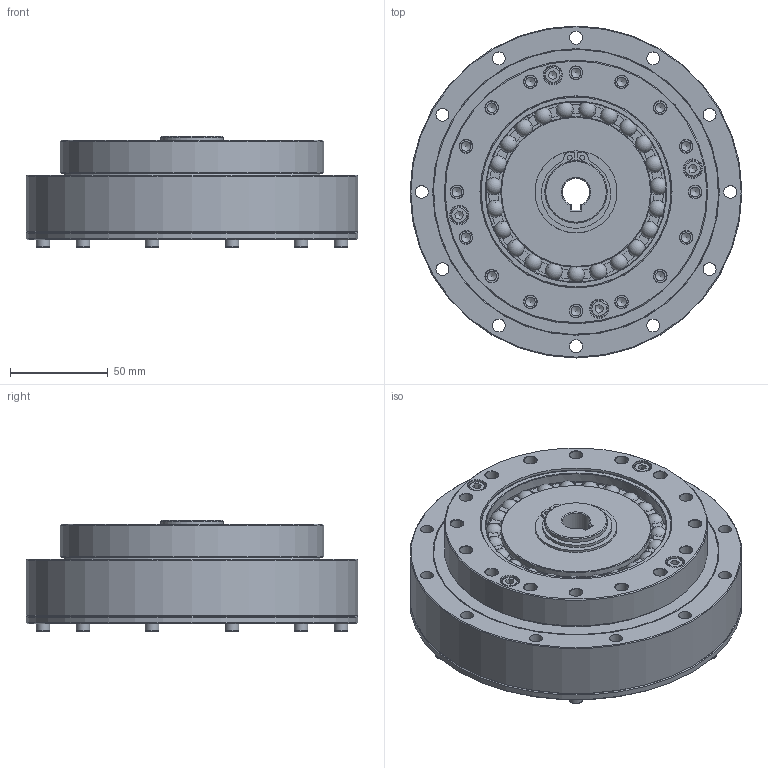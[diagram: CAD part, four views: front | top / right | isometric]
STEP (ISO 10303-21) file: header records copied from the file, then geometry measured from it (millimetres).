
FILE_DESCRIPTION(/* description */ (''),/* implementation_level */ '2;1');
FILE_NAME(/* name */ '\\Hiwin.tw\dfs\TB00F\研發課二組\\X2\6A5F5BC67D1A\X0\\1.設計\01-DT\DT-圖面\2.\X2\7D4454085716\X0\\模型\DGH-PO\DGH-40-PO\DGH-40-PO.stp',/* time_stamp */ '2024-07-05T10:57:39+08:00',/* author */ ('chiayu.chen'),/* organization */ (''),/* preprocessor_version */ 'ST-DEVELOPER v15.2',/* originating_system */ 'Autodesk Inventor 2014',/* authorisation */ '');
FILE_SCHEMA (('AUTOMOTIVE_DESIGN { 1 0 10303 214 3 1 1 }'));
Length unit declared in the file: centimetre
Products named in the file (1): AK0011P1
Bounding box: 170 x 170 x 57 mm (x, y, z)
Volume: 714357.6 mm3; surface area: 112779 mm2
Topology: 1 solids, 17 shells, 636 faces, 1546 edges, 971 vertices
Faces by surface type: cylinder 209, plane 205, cone 130, torus 69, sphere 23
Full cylindrical faces by diameter (mm): 2.5 x2, 3.242 x6, 4 x6, 4.5 x6, 4.917 x16, 5 x4, 5.5 x4, 6.6 x40, 7 x6, 8.5 x4, 9.5 x4, 30.3 x1, 32 x1, 42 x1, 67.5 x1, 76.96 x1, 92.35 x1, 98.17 x2, 135 x1, 140 x1, 146 x1, 170 x2
Entity records: 16731 total; most frequent: CARTESIAN_POINT 3103, DIRECTION 2974, ORIENTED_EDGE 2302, AXIS2_PLACEMENT_3D 1362, EDGE_CURVE 1105, EDGE_LOOP 994, VERTEX_POINT 815, CIRCLE 725
